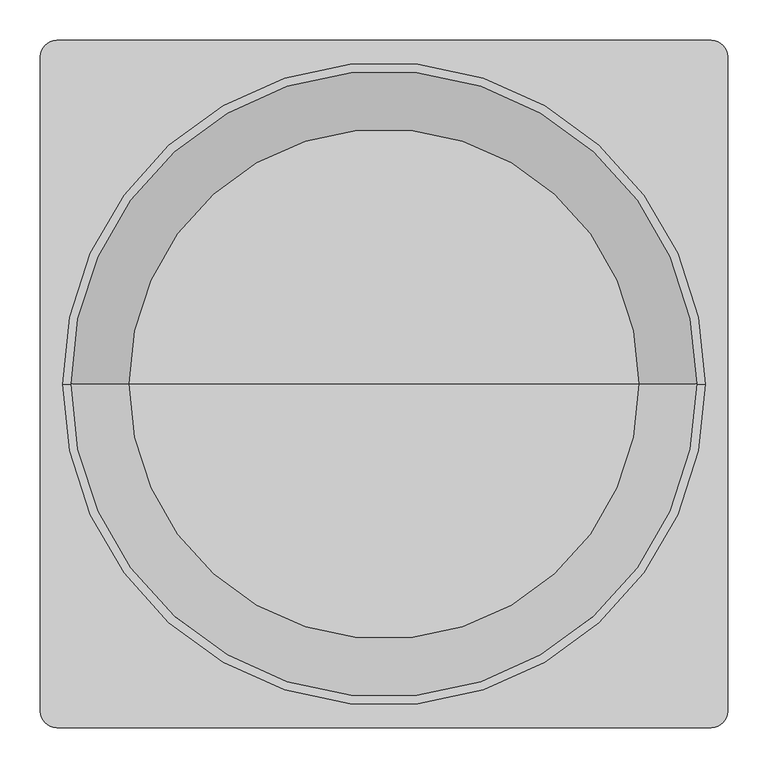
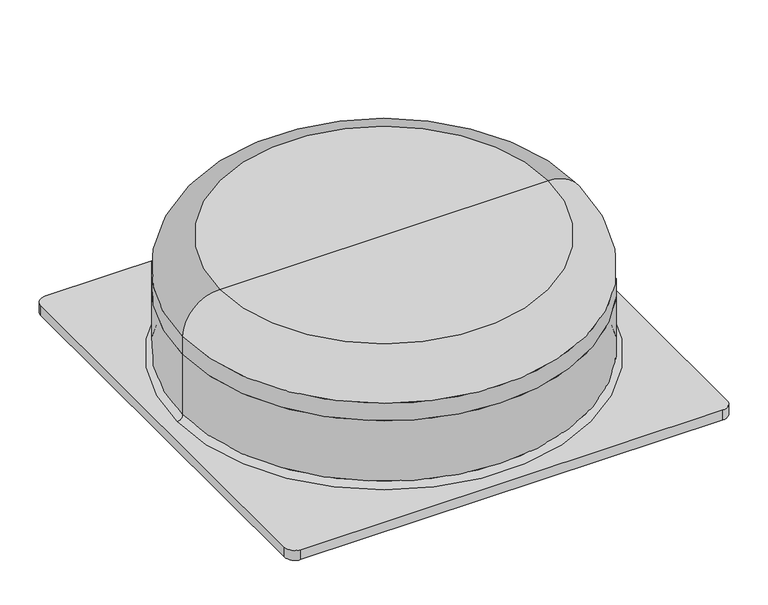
"""IFC4 building model written with IfcOpenShell, lengths in millimetres: unitary equipment geometry, VE-Wentylator-ParaForma-Harmann-WAF-Nawiewny : 710/4/6/25000T."""

from ifc_helpers import new_model, si_unit, point, frame, frame_2d, origin, origin_with_axes, origin_2d, place, context, project, spatial, polyline, circle_curve, ellipse_curve, trimmed, segment, composite_curve, outline, extrude, source, transform, mapped, element, save
from ifc_brep_helpers import plane_surface, cylinder_surface, revolved_surface, advanced_brep


def unitary_equipment_3c9ff978(model_context):
    return source(origin(), model_context, "Body", "SolidModel", [
        advanced_brep(
        [(387.0, 0.0, 153.3), (0.0, 0.0, 153.3), (-387.0, 0.0, 153.3), (387.0, 0.0, 188.8666667), (-387.0, 0.0, 188.8666667), (315.8666667, 0.0, 260.0), (-315.8666667, 0.0, 260.0), (0.0, 0.0, 260.0)],
        [
            (0, 1),
            (1, 2),
            (2, 0, circle_curve(frame((0.0, 0.0, 153.3), z_axis=(0.0, 0.0, -1.0), x_axis=(-1.0000000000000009, 0.0, 0.0)), 387.0)),
            (0, 2, circle_curve(frame((0.0, 0.0, 153.3), z_axis=(0.0, 0.0, -1.0), x_axis=(-1.0000000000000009, 0.0, 0.0)), 387.0)),
            (3, 0),
            (2, 4),
            (4, 3, circle_curve(frame((0.0, 0.0, 188.8666667), z_axis=(0.0, 0.0, -1.0), x_axis=(-1.0000000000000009, 0.0, 0.0)), 387.0)),
            (3, 4, circle_curve(frame((0.0, 0.0, 188.8666667), z_axis=(0.0, 0.0, -1.0), x_axis=(-1.0000000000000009, 0.0, 0.0)), 387.0)),
            (5, 3, circle_curve(frame((315.8666667, 0.0, 188.8666667), z_axis=(0.0, 1.0000000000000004, 0.0), x_axis=(0.0, 0.0, -1.0000000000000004)), 71.1333333)),
            (4, 6, circle_curve(frame((-315.8666667, 0.0, 188.8666667), z_axis=(0.0, 1.0000000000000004, 0.0), x_axis=(0.0, 0.0, -1.0000000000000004)), 71.1333333)),
            (6, 5, circle_curve(frame((0.0, 0.0, 260.0), z_axis=(0.0, 0.0, -1.0), x_axis=(-1.0000000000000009, 0.0, 0.0)), 315.8666667)),
            (5, 6, circle_curve(frame((0.0, 0.0, 260.0), z_axis=(0.0, 0.0, -1.0), x_axis=(-1.0000000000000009, 0.0, 0.0)), 315.8666667)),
            (7, 5),
            (6, 7),
        ],
        [
            plane_surface(frame((0.0, 0.0, 153.3), z_axis=(0.0, 0.0, -1.0), x_axis=(-1.0, 0.0, 0.0))),
            cylinder_surface(frame((0.0, 0.0, 153.3), z_axis=(0.0, 0.0, 1.0000000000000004), x_axis=(-1.0000000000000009, 0.0, 0.0)), 387.0),
            revolved_surface(trimmed(ellipse_curve(frame((-315.8666667, 0.0, 188.8666667), z_axis=(0.0, 1.0000000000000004, 0.0), x_axis=(0.0, 0.0, -1.0000000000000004)), 71.1333333, 71.1333333), [point((-387.0, 0.0, 188.8666667))], [point((-315.8666667, 0.0, 260.0))], True, "CARTESIAN"), (0.0, 0.0, 153.3), (0.0, 0.0, 1.0000000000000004)),
            plane_surface(frame((0.0, 0.0, 260.0), z_axis=(0.0, 0.0, 1.0), x_axis=(-1.0, 0.0, 0.0))),
        ],
        [
            (0, [[1, 2, 3]]),
            (0, [[-2, -1, 4]]),
            (1, [[5, -3, 6, 7]]),
            (1, [[-6, -4, -5, 8]]),
            (2, [[9, -7, 10, 11]]),
            (2, [[-10, -8, -9, 12]]),
            (3, [[13, -11, 14]]),
            (3, [[-14, -12, -13]]),
        ],
    ),
        advanced_brep(
        [(0.0, 0.0, 153.3), (387.0, 0.0, 153.3), (-387.0, 0.0, 153.3), (397.5, 0.0, 20.0), (0.0, 0.0, 20.0), (-397.5, 0.0, 20.0), (387.0, 0.0, 30.5), (-387.0, 0.0, 30.5)],
        [
            (0, 1),
            (1, 2, circle_curve(frame((0.0, 0.0, 153.3), z_axis=(0.0, 0.0, 1.0), x_axis=(-1.0000000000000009, 0.0, 0.0)), 387.0)),
            (2, 0),
            (2, 1, circle_curve(frame((0.0, 0.0, 153.3), z_axis=(0.0, 0.0, 1.0), x_axis=(-1.0000000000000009, 0.0, 0.0)), 387.0)),
            (3, 4),
            (4, 5),
            (5, 3, circle_curve(frame((0.0, 0.0, 20.0), z_axis=(0.0, 0.0, -1.0), x_axis=(-1.0000000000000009, 0.0, 0.0)), 397.5)),
            (3, 5, circle_curve(frame((0.0, 0.0, 20.0), z_axis=(0.0, 0.0, -1.0), x_axis=(-1.0000000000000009, 0.0, 0.0)), 397.5)),
            (6, 3, circle_curve(frame((397.5, 0.0, 30.5), z_axis=(0.0, -1.0000000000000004, 0.0), x_axis=(0.0, 0.0, -1.0000000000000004)), 10.5)),
            (5, 7, circle_curve(frame((-397.5, 0.0, 30.5), z_axis=(0.0, -1.0000000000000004, 0.0), x_axis=(0.0, 0.0, -1.0000000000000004)), 10.5)),
            (7, 6, circle_curve(frame((0.0, 0.0, 30.5), z_axis=(0.0, 0.0, -1.0), x_axis=(-1.0000000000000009, 0.0, 0.0)), 387.0)),
            (6, 7, circle_curve(frame((0.0, 0.0, 30.5), z_axis=(0.0, 0.0, -1.0), x_axis=(-1.0000000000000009, 0.0, 0.0)), 387.0)),
            (1, 6),
            (7, 2),
        ],
        [
            plane_surface(frame((0.0, 0.0, 153.3), z_axis=(0.0, 0.0, 1.0), x_axis=(-1.0, 0.0, 0.0))),
            plane_surface(frame((0.0, 0.0, 20.0), z_axis=(0.0, 0.0, -1.0), x_axis=(-1.0, 0.0, 0.0))),
            revolved_surface(trimmed(ellipse_curve(frame((-397.5, 0.0, 30.5), z_axis=(0.0, -1.0000000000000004, 0.0), x_axis=(0.0, 0.0, -1.0000000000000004)), 10.5, 10.5), [point((-397.5, 0.0, 20.0))], [point((-387.0, 0.0, 30.5))], True, "CARTESIAN"), (0.0, 0.0, 153.3), (0.0, 0.0, 1.0000000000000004)),
            cylinder_surface(frame((0.0, 0.0, 153.3), z_axis=(0.0, 0.0, 1.0000000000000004), x_axis=(-1.0000000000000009, 0.0, 0.0)), 387.0),
        ],
        [
            (0, [[1, 2, 3]]),
            (0, [[-3, 4, -1]]),
            (1, [[5, 6, 7]]),
            (1, [[-6, -5, 8]]),
            (2, [[9, -7, 10, 11]]),
            (2, [[-10, -8, -9, 12]]),
            (3, [[13, -11, 14, -2]]),
            (3, [[-14, -12, -13, -4]]),
        ],
    ),
        extrude(outline(composite_curve([segment(trimmed(circle_curve(origin_2d(), 119.25), [point((119.25, 0.0))], [point((-119.25, 0.0))], False, "CARTESIAN"), True, "CONTINUOUS"), segment(trimmed(circle_curve(origin_2d(), 119.25), [point((-119.25, 0.0))], [point((119.25, 0.0))], False, "CARTESIAN"), True, "CONTINUOUS")], self_intersect=False)), frame((0.0, 0.0, -14.0), z_axis=(0.0, 0.0, 1.0), x_axis=(1.0, 0.0, 0.0)), (0.0, 0.0, 1.0), 14.0),
        extrude(outline(composite_curve([segment(trimmed(circle_curve(frame_2d((405.0, 405.0)), 20.0), [point((405.0, 425.0))], [point((425.0, 405.0))], False, "CARTESIAN"), True, "CONTINUOUS"), segment(polyline([(425.0, 405.0), (425.0, -405.0)]), True, "CONTINUOUS"), segment(trimmed(circle_curve(frame_2d((405.0, -405.0)), 20.0), [point((425.0, -405.0))], [point((405.0, -425.0))], False, "CARTESIAN"), True, "CONTINUOUS"), segment(polyline([(405.0, -425.0), (-405.0, -425.0)]), True, "CONTINUOUS"), segment(trimmed(circle_curve(frame_2d((-405.0, -405.0)), 20.0), [point((-405.0, -425.0))], [point((-425.0, -405.0))], False, "CARTESIAN"), True, "CONTINUOUS"), segment(polyline([(-425.0, -405.0), (-425.0, 405.0)]), True, "CONTINUOUS"), segment(trimmed(circle_curve(frame_2d((-405.0, 405.0)), 20.0), [point((-425.0, 405.0))], [point((-405.0, 425.0))], False, "CARTESIAN"), True, "CONTINUOUS"), segment(polyline([(-405.0, 425.0), (405.0, 425.0)]), True, "CONTINUOUS")], self_intersect=False)), origin_with_axes(), (0.0, 0.0, 1.0), 20.0),
    ])


if __name__ == "__main__":
    model = new_model("IFC4")
    model_context = context("Model", 3, world=origin())
    ifc_project = project(units=[si_unit("LENGTHUNIT", "METRE", prefix="MILLI")], contexts=[model_context])
    site = spatial("IfcSite", under=ifc_project)
    building = spatial("IfcBuilding", under=site)
    placement = place(None, origin())
    unitary_equipment_shape = unitary_equipment_3c9ff978(model_context)
    element("IfcUnitaryEquipment", 1, ObjectType="VE-Wentylator-ParaForma-Harmann-WAF-Nawiewny : 710/4/6/25000T", at=placement, inside=building, context=model_context, shape_type="MappedRepresentation", body=[
        mapped(unitary_equipment_shape, transform((0.0, 0.0, 0.0), x_axis=(1.0, 0.0, 0.0), y_axis=(0.0, 1.0, 0.0), z_axis=(0.0, 0.0, 1.0))),
    ])
    save(model, "model.ifc")
